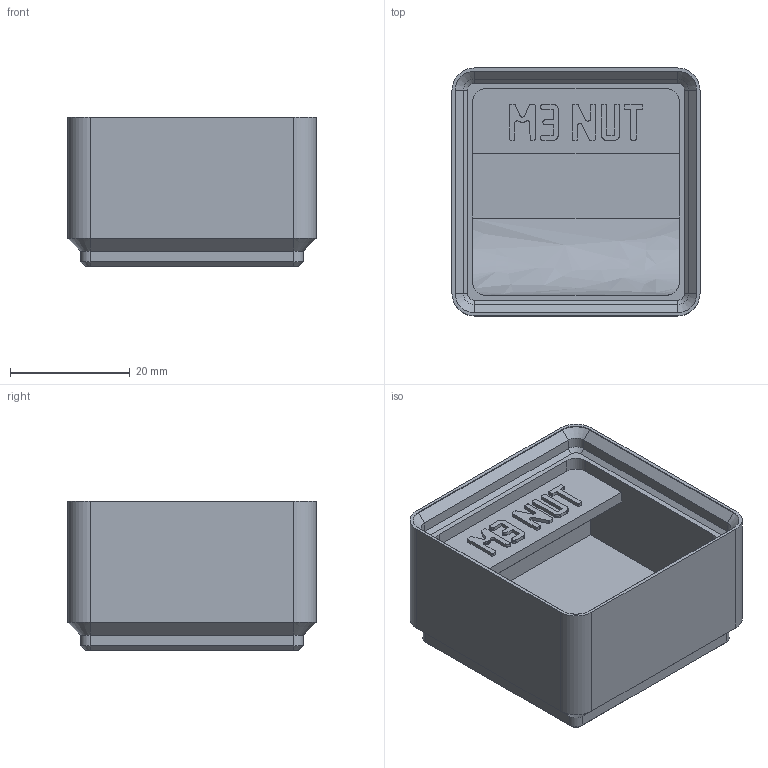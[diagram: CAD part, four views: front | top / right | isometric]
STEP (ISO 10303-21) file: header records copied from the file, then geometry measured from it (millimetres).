
FILE_DESCRIPTION(('Open CASCADE Model'),'2;1');
FILE_NAME('m3-nut','2026-11-17T16:08:10',('Author'),('Open CASCADE'), 'Open CASCADE STEP processor 8.0','build123d','Unknown');
FILE_SCHEMA(('AUTOMOTIVE_DESIGN { 1 0 10303 214 1 1 1 1 }'));
Length unit declared in the file: millimetre
Products named in the file (1): m3-nut
Bounding box: 41.5 x 41.5 x 25 mm (x, y, z)
Volume: 22470.9 mm3; surface area: 9521 mm2
Topology: 1 solids, 1 shells, 536 faces, 1533 edges, 1006 vertices
Faces by surface type: plane 499, cylinder 20, cone 16, extrusion 1
Entity records: 36216 total; most frequent: CARTESIAN_POINT 7435, DIRECTION 4664, VECTOR 3482, LINE 3481, ORIENTED_EDGE 3066, PCURVE 3066, DEFINITIONAL_REPRESENTATION 3066, EDGE_CURVE 1533
